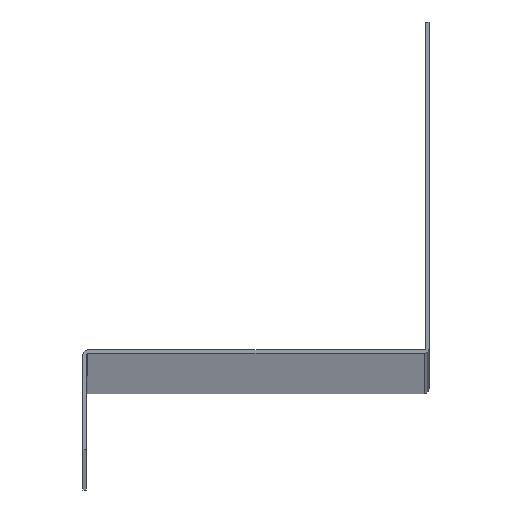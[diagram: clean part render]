
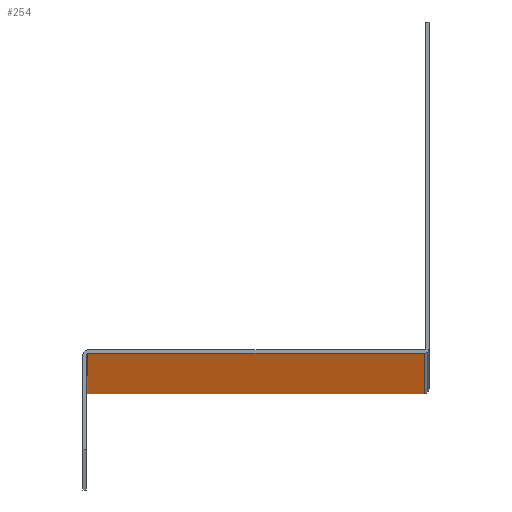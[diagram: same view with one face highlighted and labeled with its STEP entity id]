
A CAD part, top view. The second image highlights one B-rep face of the part: STEP entity #254.
In plain terms, the highlighted planar face has unit normal (0, -1, 0).
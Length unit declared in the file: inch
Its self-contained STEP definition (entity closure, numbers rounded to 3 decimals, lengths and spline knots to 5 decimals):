
#15=PLANE('',#292);
#26=FACE_OUTER_BOUND('',#40,.T.);
#40=EDGE_LOOP('',(#181,#182,#183,#184));
#53=LINE('',#391,#81);
#55=LINE('',#397,#83);
#56=LINE('',#399,#84);
#57=LINE('',#400,#85);
#81=VECTOR('',#317,0.3937);
#83=VECTOR('',#323,0.3937);
#84=VECTOR('',#324,0.3937);
#85=VECTOR('',#325,0.3937);
#118=VERTEX_POINT('',#388);
#119=VERTEX_POINT('',#390);
#121=VERTEX_POINT('',#396);
#122=VERTEX_POINT('',#398);
#142=EDGE_CURVE('',#118,#119,#53,.T.);
#145=EDGE_CURVE('',#118,#121,#55,.T.);
#146=EDGE_CURVE('',#122,#121,#56,.T.);
#147=EDGE_CURVE('',#119,#122,#57,.T.);
#181=ORIENTED_EDGE('',*,*,#142,.F.);
#182=ORIENTED_EDGE('',*,*,#145,.T.);
#183=ORIENTED_EDGE('',*,*,#146,.F.);
#184=ORIENTED_EDGE('',*,*,#147,.F.);
#254=ADVANCED_FACE('',(#26),#15,.T.);
#292=AXIS2_PLACEMENT_3D('',#395,#321,#322);
#317=DIRECTION('',(0.,0.,1.));
#321=DIRECTION('center_axis',(0.,-1.,0.));
#322=DIRECTION('ref_axis',(1.,0.,0.));
#323=DIRECTION('',(1.,0.,0.));
#324=DIRECTION('',(0.,0.,-1.));
#325=DIRECTION('',(1.,0.,0.));
#388=CARTESIAN_POINT('',(0.0071,0.5,0.));
#390=CARTESIAN_POINT('',(0.0071,0.5,120.));
#391=CARTESIAN_POINT('',(0.0071,0.5,0.));
#395=CARTESIAN_POINT('Origin',(0.,0.5,0.));
#396=CARTESIAN_POINT('',(1.754,0.5,0.));
#397=CARTESIAN_POINT('',(0.,0.5,0.));
#398=CARTESIAN_POINT('',(1.754,0.5,120.));
#399=CARTESIAN_POINT('',(1.754,0.5,0.));
#400=CARTESIAN_POINT('',(0.,0.5,120.));
